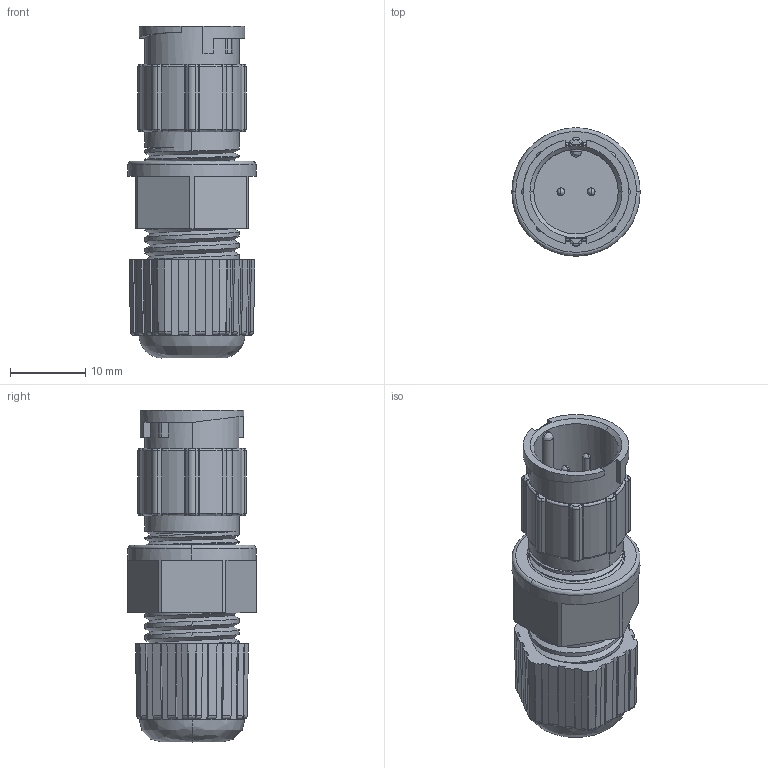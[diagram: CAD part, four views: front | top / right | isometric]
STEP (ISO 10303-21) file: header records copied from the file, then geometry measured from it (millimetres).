
FILE_DESCRIPTION (( 'STEP AP203' ), '1' );
FILE_NAME ('868-02B-103KIT.STEP', '2025-12-17T18:10:39', ( '' ), ( '' ), 'SwSTEP 2.0', 'SolidWorks 2020', '' );
FILE_SCHEMA (( 'CONFIG_CONTROL_DESIGN' ));
Length unit declared in the file: millimetre
Products named in the file (1): 868-02B-103KIT
Bounding box: 17 x 17 x 44 mm (x, y, z)
Volume: 4633.5 mm3; surface area: 5226 mm2
Topology: 1 solids, 1 shells, 536 faces, 1375 edges, 845 vertices
Faces by surface type: cylinder 190, plane 178, bspline 138, cone 30
Entity records: 28959 total; most frequent: CARTESIAN_POINT 17519, ORIENTED_EDGE 2732, DIRECTION 1864, EDGE_CURVE 1366, VERTEX_POINT 845, AXIS2_PLACEMENT_3D 688, EDGE_LOOP 553, ADVANCED_FACE 536
